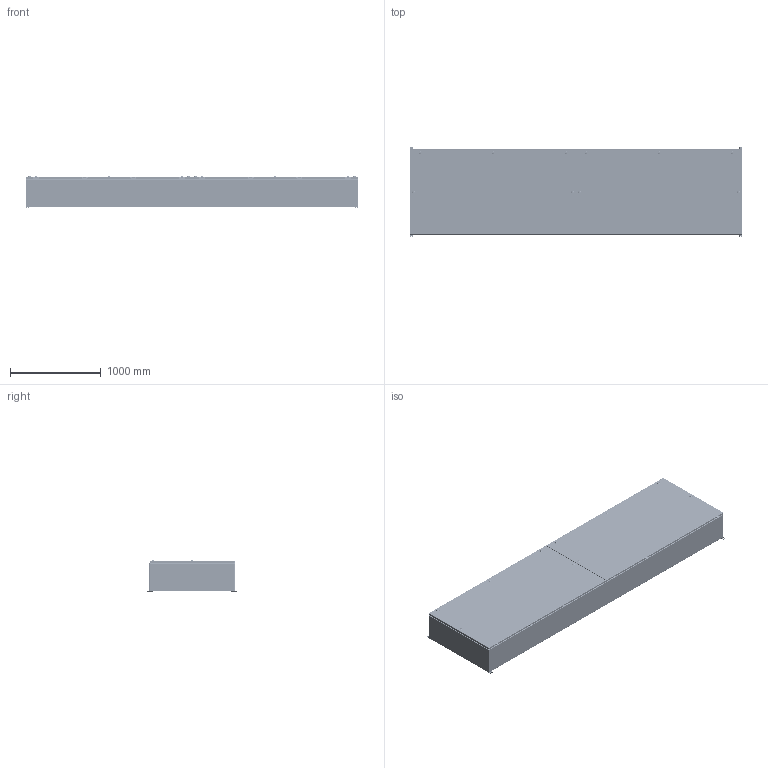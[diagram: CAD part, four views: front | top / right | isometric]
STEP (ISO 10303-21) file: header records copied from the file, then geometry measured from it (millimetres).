
FILE_DESCRIPTION(/* description */ ('1412BTCU 2500A - 4 Wires x 144" Assembly'),/* implementation_level */ '2;1');
FILE_NAME(/* name */ 'C:\Vault_Workspace\Inventor_Dwg\BoxCad\Result\1412BTCU122504\e-mail\3D\1412BTCU122504.stp',/* time_stamp */ '2022-09-22T03:28:04-04:00',/* author */ ('BoxCad'),/* organization */ (''),/* preprocessor_version */ 'ST-DEVELOPER v18.1',/* originating_system */ 'Autodesk Inventor 2020',/* authorisation */ '');
FILE_SCHEMA (('AUTOMOTIVE_DESIGN { 1 0 10303 214 3 1 1 }'));
Products named in the file (69): 1412BTCU122504; 1412BTCU122504B; 1412BTCU122504B-P; 1412BTCU122504E-P; STK-Q-16005; iLogic_STK-G-00701; STK-Q-00260; STK-Q-07220-1; STK-Q-07220-A; STK-Q-07220-B; 1412BTCU122504C; 1412BTCU122504C-P; 1412BTCU122504F-P; 1412BTCU122504G; STK-Q-16080; STK-K-09800; STK-Q-33014; STK-Q-90398; STK-Q-40095; STK-Q-63410; STK-S-00100; STK-P-02400S; STK-A-880SCQ4-SL-1; STK-A-880SCQ4-SL-2; STK-A-880SCQ4-SL-3; STK-A-880SCQ4-SL-4; STK-A-880SCQ4-SL-5; STK-A-880SCQ4-SL-6; STK-Q-78140; STK-A-880SCQ4-SL-7; STK-A-880SCQ4-SL-8; STK-A-880SCQ4-SL-9; STK-A-880SCQ4-SL-10; STK-Q-78110; STK-Q-78120; STK-Q-78145; STK-Q-03200; STK-Q-78125; STK-Q-78141; STK-Q-90390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
Assembly tree (258 placements, depth 4):
  1412BTCU122504
    1412BTCU122504B
      1412BTCU122504B-P
      1412BTCU122504E-P
      STK-Q-16080  x2
      STK-Q-16005  x12
      iLogic_STK-G-00701
      STK-Q-00260  x10
      STK-Q-07220-1  x10
        STK-Q-07220-A
        STK-Q-07220-B
      STK-S-00100
      STK-P-02400S
    1412BTCU122504C
      1412BTCU122504C-P
      1412BTCU122504F-P
      1412BTCU122504G  x2
      STK-Q-16080  x2
      STK-K-09800  x8
        STK-Q-33014
        STK-Q-90398
        STK-Q-40095
        STK-Q-63410
      STK-S-00100
      STK-P-02400S
      STK-A-880SCQ4-SL-1
        STK-Q-78110
        STK-Q-78120
        STK-Q-78145
        STK-Q-03200
        STK-Q-78125
        STK-Q-78141
        STK-Q-90390
        STK-Q-78160
      STK-A-880SCQ4-SL-2
        STK-Q-78110
        STK-Q-78120
        STK-Q-78145
        STK-Q-03200
        STK-Q-78125
        STK-Q-78141
        STK-Q-90390
        STK-Q-78160
      STK-A-880SCQ4-SL-3
        STK-Q-78110
        STK-Q-78120
        STK-Q-78145
        STK-Q-03200
        STK-Q-78125
        STK-Q-78141
        STK-Q-90390
        STK-Q-78160
      STK-A-880SCQ4-SL-4
        STK-Q-78110
        STK-Q-78120
        STK-Q-78145
        STK-Q-03200
        STK-Q-78125
        STK-Q-78141
        STK-Q-90390
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Bounding box: 3657.6 x 996.95 x 344.99 mm (x, y, z)
Volume: 44913899.1 mm3; surface area: 29583507.7 mm2
Topology: 400 solids, 400 shells, 56193 faces, 146034 edges, 90512 vertices
Faces by surface type: plane 20769, bspline 14722, cylinder 14079, torus 4449, sphere 1328, cone 846
Full cylindrical faces by diameter (mm): 0.75 x16, 0.762 x16, 1 x32, 1.1 x32, 3.2 x16, 4.5 x80, 4.521 x32, 4.85 x64, 4.95 x16, 5 x10, 5.1 x148, 5.6 x8, 5.9 x278, 6.65 x32, 6.8 x10, 6.85 x120, 7.3 x8, 7.366 x8, 7.8 x820, 7.9 x12, 8 x74, 8.25 x40, 8.382 x8, 8.6 x12, 9.5 x10, 9.6 x10, 9.7 x48, 9.906 x4, 10 x10, 10.312 x2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
Entity records: 230660 total; most frequent: CARTESIAN_POINT 87271, ORIENTED_EDGE 31142, DIRECTION 26338, EDGE_CURVE 15571, VERTEX_POINT 9897, AXIS2_PLACEMENT_3D 9170, LINE 7998, VECTOR 7998
